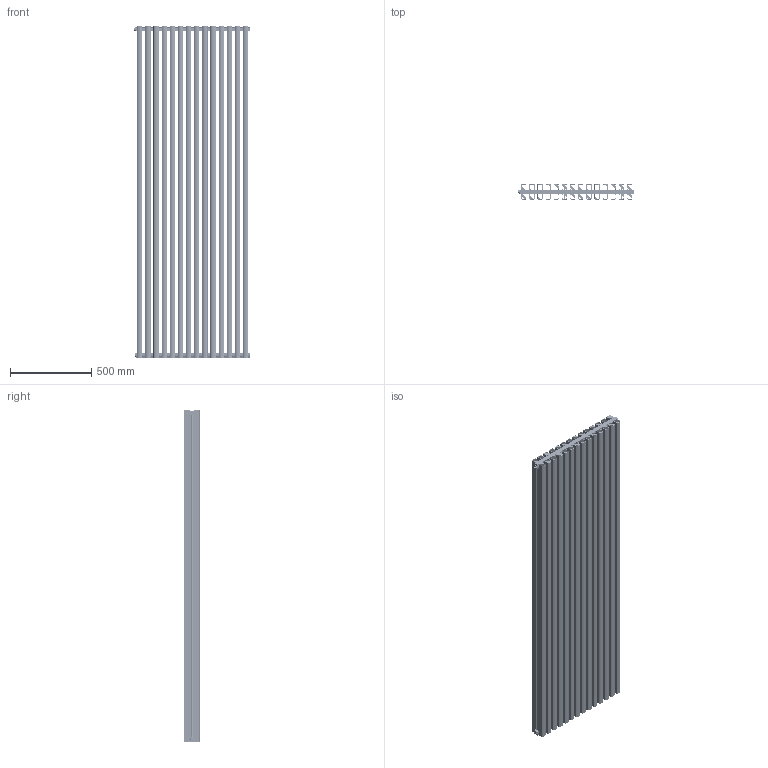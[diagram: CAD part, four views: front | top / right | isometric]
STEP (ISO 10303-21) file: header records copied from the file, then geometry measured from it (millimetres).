
FILE_DESCRIPTION (( 'STEP AP214' ), '1' );
FILE_NAME ('TONALE 2000_14.STEP', '2024-07-22T09:33:09', ( '' ), ( '' ), 'SwSTEP 2.0', 'SolidWorks 2024', '' );
FILE_SCHEMA (( 'AUTOMOTIVE_DESIGN' ));
Length unit declared in the file: millimetre
Products named in the file (12): Art.011; Coperchietto; TONALE 2000_14; P3EL00002A_2000; P3EL00004A_14 elementi; Art.041; Assieme vitone con o_ring; ETV600G_foro Ø 4; P3EL00004A_14 elementi CS; EPC10022D_1000; O-RING 2,4 D16,3
Assembly tree (71 placements, depth 3):
  TONALE 2000_14
    EPC10022D_1000  x14
    Art.011  x3
      Art.011
      Coperchietto
    Art.041
    Art.011  x4
    P3EL00002A_2000  x14
    P3EL00004A_14 elementi CS
    Assieme vitone con o_ring  x28
      ETV600G_foro Ø 4
      O-RING 2,4 D16,3
    P3EL00004A_14 elementi
Bounding box: 716.3 x 95 x 2039.3 mm (x, y, z)
Volume: 16828136.4 mm3; surface area: 20592259.6 mm2
Topology: 128 solids, 128 shells, 8202 faces, 22621 edges, 14390 vertices
Faces by surface type: cylinder 3474, plane 3466, cone 786, torus 258, bspline 162, sphere 56
Entity records: 40483 total; most frequent: CARTESIAN_POINT 15502, DIRECTION 5157, ORIENTED_EDGE 5086, EDGE_CURVE 2543, AXIS2_PLACEMENT_3D 1884, VERTEX_POINT 1647, VECTOR 1389, LINE 1389
